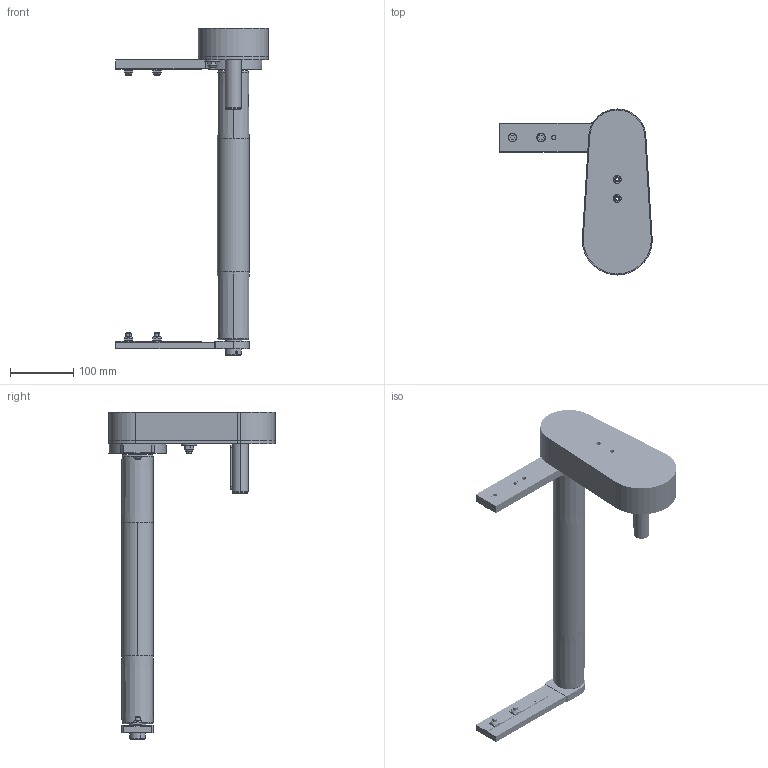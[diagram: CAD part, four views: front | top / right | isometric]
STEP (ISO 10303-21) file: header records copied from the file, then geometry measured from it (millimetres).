
FILE_DESCRIPTION (( 'STEP AP203' ), '1' );
FILE_NAME ('084.050.KTC.49.400.STEP', '2019-07-29T13:27:10', ( '' ), ( '' ), 'SwSTEP 2.0', 'SolidWorks 2018', '' );
FILE_SCHEMA (( 'CONFIG_CONTROL_DESIGN' ));
Length unit declared in the file: millimetre
Products named in the file (24): 084.302.000 DADI ALUSIC 13x13_084.302.004; RONDELLE FASCIA LARGA UNI 6593_8.4x24 UNI 6593; 084.807.002_084.807.002; 084.050.KTC.49.400; Circlip DIN 471 - 8 x 0.8_Circlip DIN 471 - 8 x 0.8; 084.809.003; 084.811.004; 084.815.117_Default<A macchina>; 084.301.000 VITI ALUSIC_084.301.003; 084.802.034_084.802.034; CUSCINETTI A SFERE_608-2RS; 084.810.001; DADI ESAGONALI AUTOBLOCCANTI UNI 7473 INOX_M8 UNI 7473 INOX; 084.813.005; 084.809.002; CHIAVETTE_A 8x7x70 UNI 6604-69; 084.803.012; 084.802.017_084.802.017; 084.810.005; 084.807.001_084.807.001; 084.810.004; 084.803.014; 084.813.001; 084.810.010
Assembly tree (32 placements, depth 3):
  084.050.KTC.49.400
    084.815.117_Default<A macchina>
    084.811.004
    084.813.001
    084.810.001  x2
    084.802.034_084.802.034
    084.802.017_084.802.017
    084.807.001_084.807.001
    084.807.002_084.807.002
    084.803.014  x2
    084.803.012
    084.809.002
    084.809.003
    084.810.005
      084.810.010
      084.810.004
      CUSCINETTI A SFERE_608-2RS  x2
      Circlip DIN 471 - 8 x 0.8_Circlip DIN 471 - 8 x 0.8
      RONDELLE FASCIA LARGA UNI 6593_8.4x24 UNI 6593
      DADI ESAGONALI AUTOBLOCCANTI UNI 7473 INOX_M8 UNI 7473 INOX
    084.301.000 VITI ALUSIC_084.301.003  x4
    084.302.000 DADI ALUSIC 13x13_084.302.004  x4
    CHIAVETTE_A 8x7x70 UNI 6604-69
    084.813.005
Bounding box: 240 x 261.5 x 516 mm (x, y, z)
Volume: 950460.7 mm3; surface area: 555361.6 mm2
Topology: 61 solids, 62 shells, 2854 faces, 6735 edges, 4305 vertices
Faces by surface type: cylinder 1399, plane 720, bspline 468, cone 172, torus 86, sphere 9
Entity records: 81297 total; most frequent: CARTESIAN_POINT 18493, DIRECTION 13655, ORIENTED_EDGE 11868, EDGE_CURVE 5934, AXIS2_PLACEMENT_3D 5764, VERTEX_POINT 3782, CIRCLE 3644, EDGE_LOOP 3104
